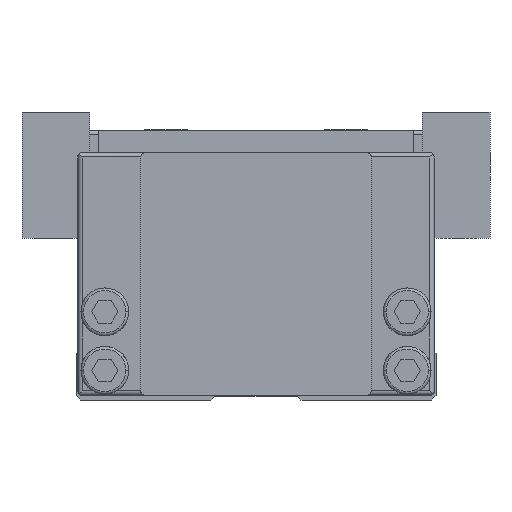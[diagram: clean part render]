
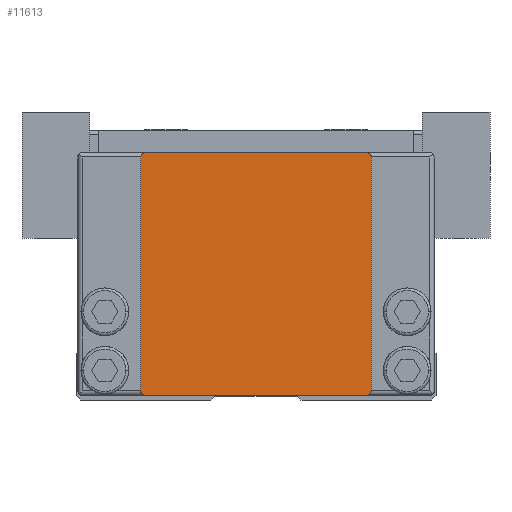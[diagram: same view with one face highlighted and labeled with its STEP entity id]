
A CAD part, front view. The second image highlights one B-rep face of the part: STEP entity #11613.
In plain terms, the highlighted planar face has unit normal (0, -1, 0).
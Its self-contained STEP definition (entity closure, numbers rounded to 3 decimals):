
#5325=VERTEX_POINT('',#15581);
#5643=EDGE_CURVE('',#9611,#8985,#15930,.T.);
#5727=EDGE_CURVE('',#10845,#5325,#16027,.T.);
#6385=EDGE_CURVE('',#7827,#12273,#16754,.T.);
#7827=VERTEX_POINT('',#18341);
#8985=VERTEX_POINT('',#19625);
#9611=VERTEX_POINT('',#20300);
#10207=VERTEX_POINT('',#20974);
#10845=VERTEX_POINT('',#21689);
#11447=EDGE_CURVE('',#13475,#10845,#22354,.T.);
#11559=EDGE_CURVE('',#5325,#7827,#22474,.T.);
#11613=ADVANCED_FACE('',(#22533),#22534,.T.);
#12229=EDGE_CURVE('',#10207,#13475,#23227,.T.);
#12273=VERTEX_POINT('',#23273);
#13279=EDGE_CURVE('',#12273,#9611,#24383,.T.);
#13475=VERTEX_POINT('',#24603);
#13859=EDGE_CURVE('',#8985,#10207,#25025,.T.);
#15581=CARTESIAN_POINT('',(12.3,0.0,0.5));
#15930=CIRCLE('',#27513,0.5);
#16027=CIRCLE('',#27643,0.5);
#16754=CIRCLE('',#28767,0.5);
#18341=CARTESIAN_POINT('',(-12.3,0.0,0.5));
#19625=CARTESIAN_POINT('',(-12.3,0.0,27.5));
#20300=CARTESIAN_POINT('',(-12.8,0.0,27.0));
#20974=CARTESIAN_POINT('',(12.3,0.0,27.5));
#21689=CARTESIAN_POINT('',(12.8,0.0,1.0));
#22354=LINE('',#37141,#37142);
#22474=LINE('',#37352,#37353);
#22533=FACE_OUTER_BOUND('',#37435,.T.);
#22534=PLANE('',#37436);
#23227=CIRCLE('',#38527,0.5);
#23273=CARTESIAN_POINT('',(-12.8,0.0,1.0));
#24383=LINE('',#40201,#40202);
#24603=CARTESIAN_POINT('',(12.8,0.0,27.0));
#25025=LINE('',#41187,#41188);
#27513=AXIS2_PLACEMENT_3D('',#44101,#44102,#44103);
#27643=AXIS2_PLACEMENT_3D('',#44255,#44256,#44257);
#28767=AXIS2_PLACEMENT_3D('',#45131,#45132,#45133);
#37141=CARTESIAN_POINT('',(12.8,0.0,1.0));
#37142=VECTOR('',#51440,1.0);
#37352=CARTESIAN_POINT('',(-12.3,0.0,0.5));
#37353=VECTOR('',#51560,1.0);
#37435=EDGE_LOOP('',(#51634,#51635,#51636,#51637,#51638,#51639,#51640,#51641));
#37436=AXIS2_PLACEMENT_3D('',#51642,#51643,#51644);
#38527=AXIS2_PLACEMENT_3D('',#52495,#52496,#52497);
#40201=CARTESIAN_POINT('',(-12.8,0.0,27.0));
#40202=VECTOR('',#53795,1.0);
#41187=CARTESIAN_POINT('',(12.3,0.0,27.5));
#41188=VECTOR('',#54524,1.0);
#44101=CARTESIAN_POINT('',(-12.3,0.0,27.0));
#44102=DIRECTION('',(0.0,1.0,-0.0));
#44103=DIRECTION('',(0.,0.0,1.0));
#44255=CARTESIAN_POINT('',(12.3,0.0,1.));
#44256=DIRECTION('',(-0.0,1.0,0.0));
#44257=DIRECTION('',(0.0,0.0,-1.0));
#45131=CARTESIAN_POINT('',(-12.3,0.0,1.));
#45132=DIRECTION('',(0.0,1.0,-0.0));
#45133=DIRECTION('',(-1.0,0.0,0.));
#51440=DIRECTION('',(-0.0,0.0,-1.0));
#51560=DIRECTION('',(-1.0,0.0,-0.0));
#51634=ORIENTED_EDGE('',*,*,#13279,.F.);
#51635=ORIENTED_EDGE('',*,*,#6385,.F.);
#51636=ORIENTED_EDGE('',*,*,#11559,.F.);
#51637=ORIENTED_EDGE('',*,*,#5727,.F.);
#51638=ORIENTED_EDGE('',*,*,#11447,.F.);
#51639=ORIENTED_EDGE('',*,*,#12229,.F.);
#51640=ORIENTED_EDGE('',*,*,#13859,.F.);
#51641=ORIENTED_EDGE('',*,*,#5643,.F.);
#51642=CARTESIAN_POINT('',(0.,0.0,14.0));
#51643=DIRECTION('',(0.0,-1.0,0.0));
#51644=DIRECTION('',(1.0,0.0,0.0));
#52495=CARTESIAN_POINT('',(12.3,0.0,27.0));
#52496=DIRECTION('',(-0.0,1.0,0.0));
#52497=DIRECTION('',(1.0,0.0,0.));
#53795=DIRECTION('',(0.0,0.0,1.0));
#54524=DIRECTION('',(1.0,0.0,0.0));
